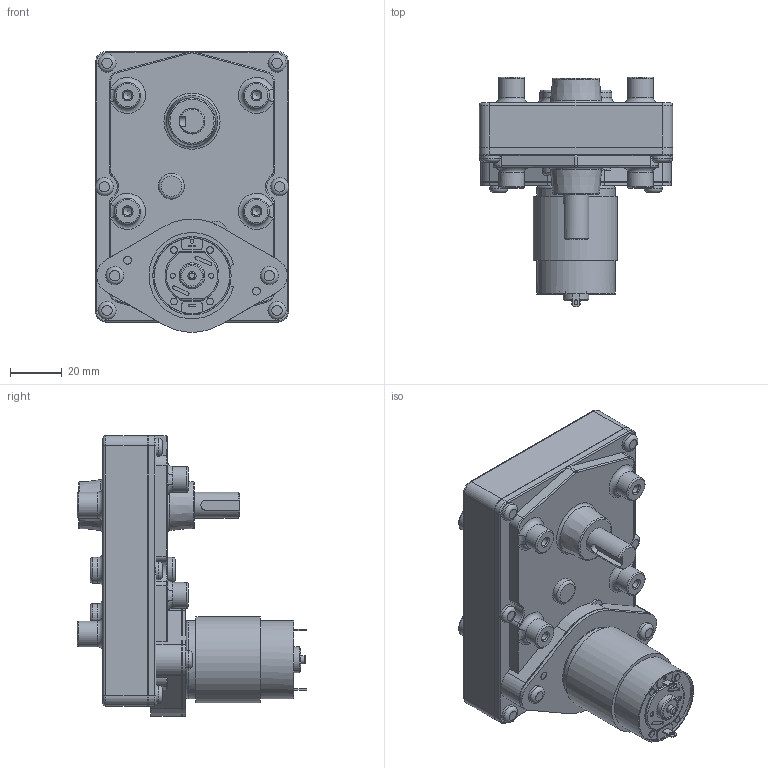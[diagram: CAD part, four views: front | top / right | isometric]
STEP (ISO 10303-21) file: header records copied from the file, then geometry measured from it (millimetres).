
FILE_DESCRIPTION(/* description */ (''),/* implementation_level */ '2;1');
FILE_NAME(/* name */ 'TP-3442#-LG.stp',/* time_stamp */ '2023-10-26T11:36:50+09:00',/* author */ ('user'),/* organization */ (''),/* preprocessor_version */ 'ST-DEVELOPER v19.2',/* originating_system */ 'Autodesk Inventor 2024',/* authorisation */ '');
FILE_SCHEMA (('AUTOMOTIVE_DESIGN { 1 0 10303 214 3 1 1 }'));
Length unit declared in the file: millimetre
Products named in the file (3): TP-3442#-LG-J00-24; lg; TP-3442#(RS-435PV)
Assembly tree (2 placements, depth 2):
  TP-3442#-LG-J00-24
    lg
    TP-3442#(RS-435PV)
Bounding box: 75 x 89.1 x 109 mm (x, y, z)
Volume: 253040.4 mm3; surface area: 37455.9 mm2
Topology: 2 solids, 2 shells, 353 faces, 837 edges, 533 vertices
Faces by surface type: plane 135, cylinder 126, torus 63, cone 25, bspline 4
Full cylindrical faces by diameter (mm): 1.5 x1, 2 x2, 2.459 x2, 2.5 x1, 2.6 x4, 3 x2, 3.17 x2, 3.242 x8, 7 x8, 8 x1, 8.3 x1, 9 x2, 9.9 x1, 10 x12, 15 x1, 29.4 x1, 30.4 x1
Entity records: 10567 total; most frequent: DIRECTION 1950, CARTESIAN_POINT 1898, ORIENTED_EDGE 1654, EDGE_CURVE 827, AXIS2_PLACEMENT_3D 787, VERTEX_POINT 533, CIRCLE 425, EDGE_LOOP 412
